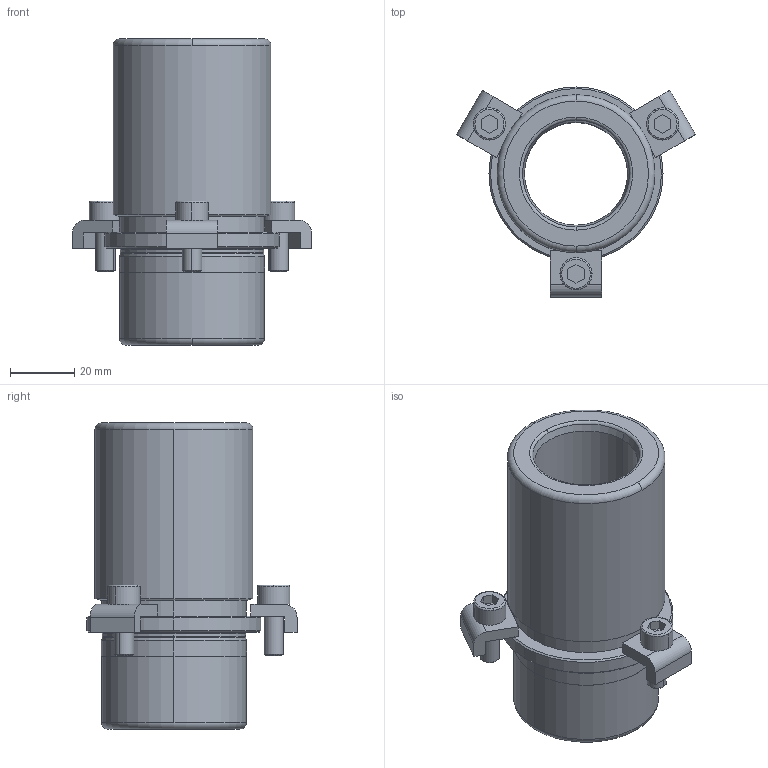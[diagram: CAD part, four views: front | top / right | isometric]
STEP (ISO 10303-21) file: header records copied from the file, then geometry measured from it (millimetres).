
FILE_DESCRIPTION((''),'2;1');
FILE_NAME('B40_024_065.stp','2009-01-05T16:21:12',(''),(''),'Mechanical Desktop 2009','Mechanical Desktop 2009',', , ');
FILE_SCHEMA(('CONFIG_CONTROL_DESIGN'));
Length unit declared in the file: millimetre
Products named in the file (2): Product; blmdl1
Assembly tree (1 placements, depth 2):
  Product
    blmdl1
Bounding box: 74.11 x 65.2 x 95 mm (x, y, z)
Volume: 99146 mm3; surface area: 31362.6 mm2
Topology: 7 solids, 7 shells, 141 faces, 362 edges, 238 vertices
Faces by surface type: plane 59, cylinder 38, cone 20, torus 14, bspline 10
Entity records: 4891 total; most frequent: CARTESIAN_POINT 1231, DIRECTION 794, ORIENTED_EDGE 724, EDGE_CURVE 362, AXIS2_PLACEMENT_3D 311, VERTEX_POINT 238, CIRCLE 178, VECTOR 172
